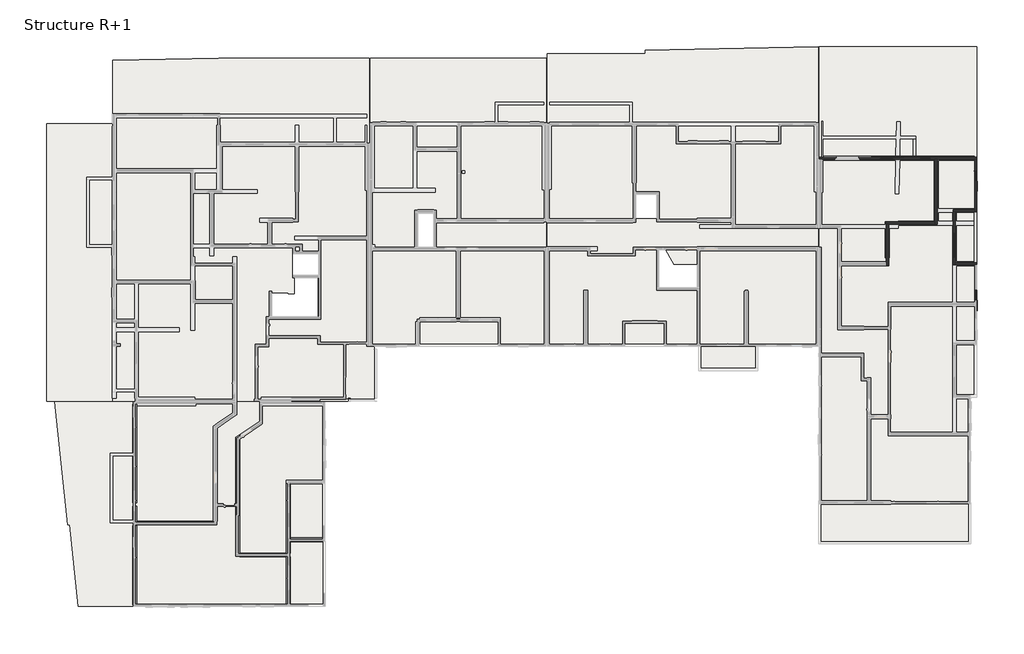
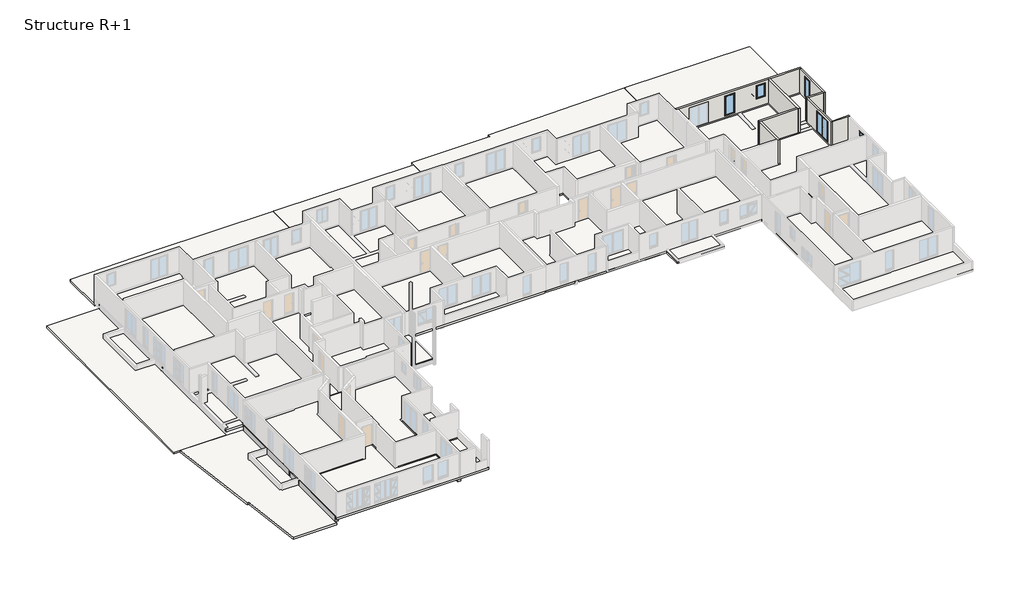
# One storey, part 8 of 11: 12 slabs, 10 walls, 6 beams, 5 windows.
"""IFC4 building model written with IfcOpenShell, lengths in millimetres."""

from ifc_helpers import new_model, si_unit, frame, origin, place, context, project, spatial, polyline, outline, extrude, faceted_brep, transform, mapped, element, save
from components import window_f6eb430b, window_595b25a0, window_0_80m_x_2_05m_45d8a1b5, window_0_90m_x_2_05m_de598733, window_1_80m_x_2_15m_7d3a4370

model = new_model("IFC4")

# Units and contexts
model_context = context("Model", 3, world=origin())
ifc_project = project(units=[si_unit("LENGTHUNIT", "METRE", prefix="MILLI")], contexts=[model_context])

# Site, building, storey
site = spatial("IfcSite", under=ifc_project)
building = spatial("IfcBuilding", under=site)
storey = spatial("IfcBuildingStorey", under=building, Name="Structure R+1", Elevation=3320.0)

# Beams
placement = place(None, origin())
element("IfcBeam", 1, ObjectType="Poutre rectangulaire - Béton : 300 x 600 mm", at=placement, inside=storey, context=model_context, shape_type="Brep", body=[
    faceted_brep([(5132.5654203, -5957.5497286, 3320.0), (5132.5654203, -5957.5497286, 2720.0), (5432.5654203, -5957.5497286, 2720.0), (5432.5654203, -5957.5497286, 3320.0), (5132.5654203, 291.1256974, 3320.0), (5132.5654203, 291.1256974, 2720.0), (5432.5654203, 291.1256974, 2720.0), (5432.5654203, 291.1256974, 3320.0), (5344.2512184, 291.1256974, 3320.0), (5344.2512184, -5945.1620119, 3320.0), (5184.2512184, -5945.1620119, 3320.0), (5184.2512184, 291.1256974, 3320.0), (5184.2512184, 291.1256974, 3030.0), (5344.2512184, 291.1256974, 3030.0), (5184.2512184, -5945.1620119, 3030.0), (5344.2512184, -5945.1620119, 3030.0)], [[[0, 1, 2, 3]], [[1, 0, 4, 5]], [[2, 1, 5, 6]], [[3, 2, 6, 7]], [[0, 3, 7, 8, 9, 10, 11, 4]], [[5, 4, 11, 12, 13, 8, 7, 6]], [[14, 15, 13, 12]], [[15, 14, 10, 9]], [[10, 14, 12, 11]], [[15, 9, 8, 13]]]),
    faceted_brep([(5432.5654203, 9987.8502714, 2720.0), (5184.2512184, 9987.8502714, 2720.0), (5184.2512184, 9987.8502714, 3030.0), (5344.2512184, 9987.8502714, 3030.0), (5344.2512184, 9987.8502714, 3230.0), (5432.5654203, 9987.8502714, 3230.0), (5132.5654203, 2104.6479064, 3320.0), (5132.5654203, 2104.6479064, 2720.0), (5432.5654203, 2104.6479064, 2720.0), (5432.5654203, 2104.6479064, 3320.0), (5344.2512184, 2104.6479064, 3320.0), (5344.2512184, 2104.6479064, 3030.0), (5184.2512184, 2104.6479064, 3030.0), (5184.2512184, 2104.6479064, 3320.0), (5132.5654203, 9855.4625547, 3320.0), (5132.5654203, 9855.4625547, 2720.0), (5184.2512184, 9855.4625547, 2720.0), (5432.5654203, 9755.4658562, 2720.0), (5432.5654203, 9895.4625547, 3230.0), (5432.5654203, 9895.4625547, 3320.0), (5432.5654203, 9755.4658562, 3320.0), (5344.2512184, 9895.4625547, 3320.0), (5184.2512184, 9855.4625547, 3320.0), (5184.2512184, 9855.4625547, 3030.0), (5344.2512184, 9895.4625547, 3230.0)], [[[0, 1, 2, 3, 4, 5]], [[6, 7, 8, 9, 10, 11, 12, 13]], [[7, 6, 14, 15]], [[8, 7, 15, 16, 1, 0, 17]], [[9, 8, 17, 0, 5, 18, 19, 20]], [[10, 9, 20, 19, 21]], [[15, 14, 22, 23, 16]], [[1, 16, 23, 2]], [[13, 12, 23, 22]], [[12, 11, 3, 2, 23]], [[22, 14, 6, 13]], [[11, 10, 21, 24, 4, 3]], [[18, 24, 21, 19]], [[24, 18, 5, 4]]]),
    faceted_brep([(5132.5654203, 591.1256974, 3320.0), (5132.5654203, 591.1256974, 2720.0), (5432.5654203, 591.1256974, 2720.0), (5432.5654203, 591.1256974, 3320.0), (5344.2512184, 591.1256974, 3320.0), (5344.2512184, 591.1256974, 3030.0), (5184.2512184, 591.1256974, 3030.0), (5184.2512184, 591.1256974, 3320.0), (5132.5654203, 1804.6479064, 3320.0), (5132.5654203, 1804.6479064, 2720.0), (5432.5654203, 1804.6479064, 2720.0), (5432.5654203, 636.6320402, 2720.0), (5432.5654203, 1804.6479064, 3320.0), (5432.5654203, 636.6320402, 3320.0), (5344.2512184, 1804.6479064, 3320.0), (5184.2512184, 1804.6479064, 3320.0), (5184.2512184, 1804.6479064, 3030.0), (5344.2512184, 1804.6479064, 3030.0)], [[[0, 1, 2, 3, 4, 5, 6, 7]], [[1, 0, 8, 9]], [[2, 1, 9, 10, 11]], [[3, 2, 11, 10, 12, 13]], [[4, 3, 13, 12, 14]], [[9, 8, 15, 16, 17, 14, 12, 10]], [[7, 6, 16, 15]], [[6, 5, 17, 16]], [[0, 7, 15, 8]], [[5, 4, 14, 17]]]),
])
element("IfcBeam", 2, ObjectType="Poutre rectangulaire - Béton : 300 x 600 mm", at=placement, inside=storey, context=model_context, shape_type="Brep", body=[
    faceted_brep([(13571.3920271, 7455.6059202, 2720.0), (13571.3920271, 7455.6059202, 3320.0), (13571.3920271, 7092.1406286, 3320.0), (13571.3920271, -1887.3578077, 3320.0), (13571.3920271, -1887.3578077, 2720.0), (13571.3920271, 7092.1406286, 2720.0), (13271.3920271, 7250.4059734, 2720.0), (13271.3920271, -1887.3578077, 2720.0), (13271.3920271, 7250.4059734, 3320.0), (13271.3920271, -1887.3578077, 3320.0)], [[[0, 1, 2, 3, 4, 5]], [[6, 0, 5, 4, 7]], [[8, 6, 7, 9]], [[1, 8, 9, 3, 2]], [[4, 3, 9, 7]], [[1, 0, 6, 8]]]),
])
element("IfcBeam", 3, ObjectType="Poutre rectangulaire - Béton : 300 x 600 mm", at=placement, inside=storey, context=model_context, shape_type="Brep", body=[
    faceted_brep([(17273.1790818, -6017.9918302, 3320.0), (17273.1790818, -6017.9918302, 2720.0), (17573.1790818, -6017.9918302, 2720.0), (17573.1790818, -6017.9918302, 3320.0), (17273.1790818, -2187.3578077, 3320.0), (17273.1790818, -2187.3578077, 2720.0), (17573.1790818, -2187.3578077, 2720.0), (17573.1790818, -2187.3578077, 3320.0)], [[[0, 1, 2, 3]], [[1, 0, 4, 5]], [[2, 1, 5, 6]], [[3, 2, 6, 7]], [[0, 3, 7, 4]], [[5, 4, 7, 6]]]),
    faceted_brep([(17273.1790818, 3581.8241455, 2720.0), (17273.1790818, 3581.8241455, 3030.0), (17273.1790818, 3581.8241455, 3320.0), (17573.1790818, 3581.8241455, 3320.0), (17573.1790818, 3581.8241455, 3030.0), (17573.1790818, 3581.8241455, 2720.0), (17273.1790818, -1887.3578077, 3320.0), (17273.1790818, -1887.3578077, 2720.0), (17573.1790818, -1887.3578077, 2720.0), (17573.1790818, -1887.3578077, 3320.0), (17573.1790818, -684.9801512, 2720.0), (17573.1790818, -984.9801512, 2720.0), (17573.1790818, -684.9801512, 3320.0), (17573.1790818, -984.9801512, 3320.0)], [[[0, 1, 2, 3, 4, 5]], [[6, 7, 8, 9]], [[2, 1, 0, 7, 6]], [[0, 5, 10, 11, 8, 7]], [[5, 4, 3, 12, 13, 9, 8, 11, 10]], [[3, 2, 6, 9, 13, 12]]]),
])
element("IfcBeam", 4, ObjectType="Poutre rectangulaire - Béton : 300 x 600 mm", at=placement, inside=storey, context=model_context, shape_type="SweptSolid", body=[
    extrude(outline(polyline([(20228.2499099, -684.9801512), (20228.2499099, -984.9801512), (17573.1790818, -984.9801512), (17573.1790818, -684.9801512), (20228.2499099, -684.9801512)])), frame((0.0, 0.0, 2720.0), z_axis=(0.0, 0.0, 1.0), x_axis=(1.0, 0.0, 0.0)), (0.0, 0.0, 1.0), 600.0),
])
element("IfcBeam", 5, ObjectType="Poutre rectangulaire - Béton : 300 x 600 mm", at=placement, inside=storey, context=model_context, shape_type="SweptSolid", body=[
    extrude(outline(polyline([(17273.1790818, -1887.3578077), (17273.1790818, -2187.3578077), (13571.3920271, -2187.3578077), (13571.3920271, -1887.3578077), (17273.1790818, -1887.3578077)])), frame((0.0, 0.0, 2720.0), z_axis=(0.0, 0.0, 1.0), x_axis=(1.0, 0.0, 0.0)), (0.0, 0.0, 1.0), 600.0),
])
element("IfcBeam", 6, ObjectType="Poutre rectangulaire - Béton : 300 x 600 mm", at=placement, inside=storey, context=model_context, shape_type="Brep", body=[
    faceted_brep([(11487.2274568, 636.6320402, 3320.0), (11487.2274568, 636.6320402, 2720.0), (5432.5654203, 636.6320402, 2720.0), (5432.5654203, 636.6320402, 3320.0), (5432.5654203, 336.6320402, 2720.0), (5432.5654203, 591.1256974, 2720.0), (11487.2274568, 336.6320402, 2720.0), (5432.5654203, 336.6320402, 3320.0), (11487.2274568, 336.6320402, 3320.0), (5432.5654203, 591.1256974, 3320.0)], [[[0, 1, 2, 3]], [[4, 5, 2, 1, 6]], [[7, 4, 6, 8]], [[3, 9, 7, 8, 0]], [[4, 7, 9, 3, 2, 5]], [[1, 0, 8, 6]]]),
])

# Slabs
element("IfcSlab", 7, ObjectType="Dalle en béton - 200 mm", at=placement, inside=storey, context=model_context, shape_type="SweptSolid", body=[
    extrude(outline(polyline([(3555.2220688, 32810.6398567), (11991.9058449, 32810.6398567), (11991.9058449, 30510.6398567), (23803.2655761, 30510.6398567), (23803.2655761, 26687.8463688), (23803.2655761, 14497.950891), (22135.222667, 14497.950891), (22135.222667, 10105.4117008), (3555.2220688, 10105.4117008), (3555.2220688, 32810.6398567)]), holes=[polyline([(17939.3988956, 19864.6101745), (17939.3988956, 18564.6534468), (17366.1932434, 18564.6534468), (17366.1932434, 18636.3961603), (16106.1727456, 18636.3961603), (16106.1727456, 16780.9152593), (19729.8425091, 16780.9152593), (19729.8425091, 19864.6101745), (17939.3988956, 19864.6101745)]), polyline([(19809.8425091, 21756.9971496), (17765.0745996, 21756.9971496), (17765.0745996, 20064.6534315), (19809.8425091, 20064.6534315), (19809.8425091, 21756.9971496)])]), frame((0.0, 0.0, 3030.0), z_axis=(0.0, 0.0, 1.0), x_axis=(1.0, 0.0, 0.0)), (0.0, 0.0, 1.0), 200.0),
])
element("IfcSlab", 8, ObjectType="Dalle en béton - 200 mm", at=placement, inside=storey, context=model_context, shape_type="Brep", body=[
    faceted_brep([(5184.2512184, -6105.1620119, 3030.0), (5184.2512184, 10065.4625547, 3030.0), (20315.920738, 10065.4625547, 3030.0), (20315.920738, -6105.1620119, 3030.0), (5184.2512184, -6105.1620119, 3230.0), (17362.934101, -6105.1620119, 3230.0), (17522.934101, -6105.1620119, 3230.0), (18982.9329233, -6105.1620119, 3230.0), (20167.8598396, -6105.1620119, 3230.0), (20315.920738, -6105.1620119, 3230.0), (20315.920738, 265.0198488, 3230.0), (20315.920738, 3635.465256, 3230.0), (20315.920738, 10065.4625547, 3230.0), (5184.2512184, 10065.4625547, 3230.0), (5184.2512184, 10055.4625547, 3230.0), (5184.2512184, -5945.1620119, 3230.0)], [[[0, 1, 2, 3]], [[4, 5, 6, 7, 8, 9, 10, 11, 12, 13, 14, 15]], [[2, 1, 13, 12]], [[3, 2, 12, 11, 10, 9]], [[0, 3, 9, 8, 7, 6, 5, 4]], [[1, 0, 4, 15, 14, 13]]]),
])
element("IfcSlab", 9, ObjectType="Dalle en béton - 200 mm", at=placement, inside=storey, context=model_context, shape_type="Brep", body=[
    faceted_brep([(37807.390788, 32107.4960317, 3030.0), (37807.390788, 31857.4959984, 3030.0), (37807.390788, 14597.8380864, 3030.0), (37807.390788, 14437.8380864, 3030.0), (23879.3002373, 14437.8380864, 3030.0), (23879.3002373, 32107.4960317, 3030.0), (24101.9389593, 32107.4960317, 3030.0), (37598.3832806, 32107.4960317, 3030.0), (24232.0816765, 22466.1118239, 3030.0), (24031.9389593, 22466.1118239, 3030.0), (24031.9389593, 22291.3798213, 3030.0), (24086.6455127, 22291.3798213, 3030.0), (24232.0816765, 22291.3798213, 3030.0), (24232.0816765, 22292.4973448, 3030.0), (31344.1569652, 28305.7586156, 3030.0), (31145.3833348, 28305.7586156, 3030.0), (31145.3833348, 28131.0266131, 3030.0), (31344.1569652, 28131.0266131, 3030.0), (28898.3678937, 25007.8260092, 3030.0), (27635.6960659, 25007.8260092, 3030.0), (27626.9395184, 25007.8260092, 3030.0), (27626.9395184, 22292.4973448, 3030.0), (27626.9395184, 22272.4973448, 3030.0), (28898.3678937, 22272.4973448, 3030.0), (28898.3678937, 22292.4973448, 3030.0), (28898.3678937, 24945.4956715, 3030.0), (37807.390788, 32107.4960317, 3230.0), (30984.3814808, 32107.4960317, 3230.0), (27524.3814808, 32107.4960317, 3230.0), (23879.3002373, 32107.4960317, 3230.0), (23879.3002373, 14437.8380864, 3230.0), (27586.9796965, 14437.8380864, 3230.0), (27746.9796965, 14437.8380864, 3230.0), (34012.3966699, 14437.8380864, 3230.0), (37807.390788, 14437.8380864, 3230.0), (37807.390788, 14597.8380864, 3230.0), (37807.390788, 31857.4959984, 3230.0), (31344.1569652, 28305.7586156, 3230.0), (31344.1569652, 28131.0266131, 3230.0), (31145.3833348, 28131.0266131, 3230.0), (31145.3833348, 28305.7586156, 3230.0), (24232.0816765, 22466.1118239, 3230.0), (24232.0816765, 22292.4973448, 3230.0), (24232.0816765, 22291.3798213, 3230.0), (24086.6455127, 22291.3798213, 3230.0), (24031.9389593, 22291.3798213, 3230.0), (24031.9389593, 22466.1118239, 3230.0), (28898.3678937, 25007.8260092, 3230.0), (28898.3678937, 24945.4956715, 3230.0), (28898.3678937, 22292.4973448, 3230.0), (28898.3678937, 22272.4973448, 3230.0), (27626.9395184, 22272.4973448, 3230.0), (27626.9395184, 22292.4973448, 3230.0), (27626.9395184, 25007.8260092, 3230.0), (27635.6960659, 25007.8260092, 3230.0)], [[[0, 1, 2, 3, 4, 5, 6, 7], [8, 9, 10, 11, 12, 13], [14, 15, 16, 17], [18, 19, 20, 21, 22, 23, 24, 25]], [[26, 27, 28, 29, 30, 31, 32, 33, 34, 35, 36], [37, 38, 39, 40], [41, 42, 43, 44, 45, 46], [47, 48, 49, 50, 51, 52, 53, 54]], [[3, 2, 1, 0, 26, 36, 35, 34]], [[4, 3, 34, 33, 32, 31, 30]], [[5, 4, 30, 29]], [[0, 7, 6, 5, 29, 28, 27, 26]], [[9, 8, 41, 46]], [[10, 9, 46, 45]], [[12, 11, 10, 45, 44, 43]], [[8, 13, 12, 43, 42, 41]], [[15, 14, 37, 40]], [[16, 15, 40, 39]], [[17, 16, 39, 38]], [[14, 17, 38, 37]], [[20, 19, 18, 47, 54, 53]], [[22, 21, 20, 53, 52, 51]], [[23, 22, 51, 50]], [[18, 25, 24, 23, 50, 49, 48, 47]]]),
])
element("IfcSlab", 10, ObjectType="Dalle en béton - 200 mm", at=placement, inside=storey, context=model_context, shape_type="Brep", body=[
    faceted_brep([(37808.398272, 37202.4079561, 2510.0), (37808.398272, 32107.4974719, 2510.0), (23879.4832806, 32107.4974719, 2510.0), (23879.4832806, 37202.4079561, 2510.0), (37808.398272, 37202.4079561, 2710.0), (37799.4832806, 37202.4079561, 2710.0), (23891.9389593, 37202.4079561, 2710.0), (23879.4832806, 37202.4079561, 2710.0), (23879.4832806, 32107.4974719, 2710.0), (37808.398272, 32107.4974719, 2710.0)], [[[0, 1, 2, 3]], [[4, 5, 6, 7, 8, 9]], [[1, 0, 4, 9]], [[2, 1, 9, 8]], [[3, 2, 8, 7]], [[0, 3, 7, 6, 5, 4]]]),
])
element("IfcSlab", 11, ObjectType="Dalle en béton - 200 mm", at=placement, inside=storey, context=model_context, shape_type="Brep", body=[
    faceted_brep([(11903.2655761, 37202.4079561, 2510.0), (23803.2655761, 37202.4079561, 2510.0), (23803.2655761, 36992.4079561, 2510.0), (23803.2655761, 30510.6398567, 2510.0), (11991.9058449, 30510.6398567, 2510.0), (11991.9058449, 32810.6398567, 2510.0), (3556.9078335, 32810.6398567, 2510.0), (3556.9078335, 36826.190541, 2510.0), (3556.9078335, 37036.2321596, 2510.0), (11903.2655761, 37202.4079561, 2710.0), (3556.9078335, 37036.2321596, 2710.0), (3556.9078335, 36826.190541, 2710.0), (3556.9078335, 32810.6398567, 2710.0), (11991.9058449, 32810.6398567, 2710.0), (11991.9058449, 30510.6398567, 2710.0), (23803.2655761, 30510.6398567, 2710.0), (23803.2655761, 36992.4079561, 2710.0), (23803.2655761, 37202.4079561, 2710.0)], [[[0, 1, 2, 3, 4, 5, 6, 7, 8]], [[9, 10, 11, 12, 13, 14, 15, 16, 17]], [[1, 0, 9, 17]], [[3, 2, 1, 17, 16, 15]], [[4, 3, 15, 14]], [[5, 4, 14, 13]], [[6, 5, 13, 12]], [[8, 7, 6, 12, 11, 10]], [[0, 8, 10, 9]]]),
])
element("IfcSlab", 12, ObjectType="Dalle en béton - 200 mm", at=placement, inside=storey, context=model_context, shape_type="SweptSolid", body=[
    extrude(outline(polyline([(3536.9058449, 32028.092309), (3536.9058449, 10125.4652425), (-1683.0020232, 10125.4652425), (-1683.0020232, 32028.092309), (3536.9058449, 32028.092309)])), frame((0.0, 0.0, 2510.0), z_axis=(0.0, 0.0, 1.0), x_axis=(1.0, 0.0, 0.0)), (0.0, 0.0, 1.0), 200.0),
])
element("IfcSlab", 13, ObjectType="Dalle en béton - 200 mm", at=placement, inside=storey, context=model_context, shape_type="SweptSolid", body=[
    extrude(outline(polyline([(5184.2512184, 10065.4625547), (5184.2512184, -6105.1620119), (840.2479411, -6105.1620119), (162.7145278, 341.1378118), (-17.3136452, 341.1378118), (-1039.3813608, 10065.4625547), (5184.2512184, 10065.4625547)])), frame((0.0, 0.0, 2510.0), z_axis=(0.0, 0.0, 1.0), x_axis=(1.0, 0.0, 0.0)), (0.0, 0.0, 1.0), 200.0),
])
element("IfcSlab", 14, ObjectType="Dalle en béton - 200 mm", at=placement, inside=storey, context=model_context, shape_type="Brep", body=[
    faceted_brep([(59292.9658186, 14457.4960288, 3030.0), (54492.9658186, 14457.4960288, 3030.0), (54492.9658186, 12557.4960288, 3030.0), (49852.9658186, 12557.4960288, 3030.0), (49852.9658186, 14457.4960288, 3030.0), (41077.3913304, 14457.4960288, 3030.0), (40777.3913304, 14457.4960288, 3030.0), (37867.390788, 14457.4960288, 3030.0), (37867.390788, 32087.4960094, 3030.0), (37878.7313075, 32087.4960094, 3030.0), (38178.7313075, 32087.4960094, 3030.0), (59282.9632272, 32087.4960094, 3030.0), (59292.9658186, 32087.4960094, 3030.0), (47199.3236625, 22097.4951106, 3030.0), (46698.8671522, 22097.4951106, 3030.0), (46698.8671522, 19072.9017524, 3030.0), (49725.0121044, 19072.9017524, 3030.0), (49725.0121044, 20889.0062839, 3030.0), (47878.8671522, 20889.0062839, 3030.0), (46510.3925697, 26457.7598122, 3030.0), (44857.3927707, 26457.7598122, 3030.0), (44857.3927707, 24557.9898683, 3030.0), (46510.3925697, 24557.9898683, 3030.0), (59292.9658186, 14457.4960288, 3230.0), (59292.9658186, 32087.4960094, 3230.0), (37867.390788, 32087.4960094, 3230.0), (37867.390788, 14617.4952897, 3230.0), (37867.390788, 14457.4960288, 3230.0), (49852.9658186, 14457.4960288, 3230.0), (49852.9658186, 12557.4960288, 3230.0), (54492.9658186, 12557.4960288, 3230.0), (54492.9658186, 14457.4960288, 3230.0), (46510.3925697, 26457.7598122, 3230.0), (46510.3925697, 24557.9898683, 3230.0), (44857.3927707, 24557.9898683, 3230.0), (44857.3927707, 26457.7598122, 3230.0), (47199.3236625, 22097.4951106, 3230.0), (47878.8671522, 20889.0062839, 3230.0), (49725.0121044, 20889.0062839, 3230.0), (49725.0121044, 19072.9017524, 3230.0), (46698.8671522, 19072.9017524, 3230.0), (46698.8671522, 22097.4951106, 3230.0)], [[[0, 1, 2, 3, 4, 5, 6, 7, 8, 9, 10, 11, 12], [13, 14, 15, 16, 17, 18], [19, 20, 21, 22]], [[23, 24, 25, 26, 27, 28, 29, 30, 31], [32, 33, 34, 35], [36, 37, 38, 39, 40, 41]], [[0, 12, 24, 23]], [[1, 0, 23, 31]], [[2, 1, 31, 30]], [[3, 2, 30, 29]], [[4, 3, 29, 28]], [[7, 6, 5, 4, 28, 27]], [[8, 7, 27, 26, 25]], [[14, 13, 36, 41]], [[15, 14, 41, 40]], [[16, 15, 40, 39]], [[17, 16, 39, 38]], [[20, 19, 32, 35]], [[21, 20, 35, 34]], [[22, 21, 34, 33]], [[19, 22, 33, 32]], [[12, 11, 10, 9, 8, 25, 24]], [[18, 17, 38, 37]], [[13, 18, 37, 36]]]),
])
element("IfcSlab", 15, ObjectType="Dalle en béton - 200 mm", at=placement, inside=storey, context=model_context, shape_type="Brep", body=[
    faceted_brep([(71794.898036, 29381.5866004, 3030.0), (71794.898036, 29301.5866004, 3030.0), (71794.898036, 25179.102104, 3030.0), (71794.898036, 20954.8947764, 3030.0), (71794.898036, 14661.6515349, 3030.0), (71794.898036, 10624.6162149, 3030.0), (71794.898036, 10424.6162149, 3030.0), (71327.0236897, 10424.6162149, 3030.0), (71317.0236897, 10424.6162149, 3030.0), (71317.0236897, 10314.6162149, 3030.0), (71317.0236897, 7665.5919516, 3030.0), (71317.0236897, 7365.5919516, 3030.0), (71317.0236897, 2104.0269927, 3030.0), (71317.0236897, -1137.3140034, 3030.0), (71177.0281909, -1137.3140034, 3030.0), (59492.9059955, -1137.3140034, 3030.0), (59353.9486146, -1137.3140034, 3030.0), (59353.9486146, 2104.0269927, 3030.0), (59353.9486146, 14437.838074, 3030.0), (59353.9486146, 29381.5866004, 3030.0), (59363.0074525, 29381.5866004, 3030.0), (59562.998512, 29381.5866004, 3030.0), (59663.0074525, 29381.5866004, 3030.0), (71794.898036, 29381.5866004, 3230.0), (59353.9486146, 29381.5866004, 3230.0), (59353.9486146, 14437.838074, 3230.0), (59353.9486146, 2184.0269927, 3230.0), (59353.9486146, 2104.0269927, 3230.0), (59353.9486146, 2024.0269927, 3230.0), (59353.9486146, -1137.3140034, 3230.0), (59492.9059955, -1137.3140034, 3230.0), (71177.0281909, -1137.3140034, 3230.0), (71317.0236897, -1137.3140034, 3230.0), (71317.0236897, 2024.0269927, 3230.0), (71317.0236897, 2104.0269927, 3230.0), (71317.0236897, 10424.6162149, 3230.0), (71794.898036, 10424.6162149, 3230.0), (71794.898036, 10624.6162149, 3230.0), (71794.898036, 14581.6515349, 3230.0), (71794.898036, 14661.6515349, 3230.0), (71794.898036, 20874.8947764, 3230.0), (71794.898036, 20954.8947764, 3230.0), (71794.898036, 21034.8947764, 3230.0), (71794.898036, 25099.102104, 3230.0), (71794.898036, 25179.102104, 3230.0), (71794.898036, 29221.5866004, 3230.0), (71794.898036, 29301.5866004, 3230.0)], [[[0, 1, 2, 3, 4, 5, 6, 7, 8, 9, 10, 11, 12, 13, 14, 15, 16, 17, 18, 19, 20, 21, 22]], [[23, 24, 25, 26, 27, 28, 29, 30, 31, 32, 33, 34, 35, 36, 37, 38, 39, 40, 41, 42, 43, 44, 45, 46]], [[6, 5, 4, 3, 2, 1, 0, 23, 46, 45, 44, 43, 42, 41, 40, 39, 38, 37, 36]], [[8, 7, 6, 36, 35]], [[13, 12, 11, 10, 9, 8, 35, 34, 33, 32]], [[16, 15, 14, 13, 32, 31, 30, 29]], [[19, 18, 17, 16, 29, 28, 27, 26, 25, 24]], [[0, 22, 21, 20, 19, 24, 23]]]),
])
element("IfcSlab", 16, ObjectType="Dalle en béton - 160 mm", at=placement, inside=storey, context=model_context, shape_type="SweptSolid", body=[
    extrude(outline(polyline([(24225.3588765, 14600.8367198), (24225.3588765, 10303.4432428), (21972.2231526, 10303.4432428), (21972.2231526, 14600.8367198), (24225.3588765, 14600.8367198)])), frame((0.0, 0.0, 3220.0), z_axis=(0.0, 0.0, 1.0), x_axis=(1.0, 0.0, 0.0)), (0.0, 0.0, 1.0), 160.0),
])
element("IfcSlab", 17, ObjectType="Dalle en béton - 200 mm", at=placement, inside=storey, context=model_context, shape_type="Brep", body=[
    faceted_brep([(59353.0074525, 38134.6162149, 2510.0), (71608.498036, 38134.6162149, 2510.0), (71797.9579903, 38134.6162149, 2510.0), (71797.9579903, 29381.5866004, 2510.0), (59353.0074525, 29381.5866004, 2510.0), (59353.0074525, 37944.6162149, 2510.0), (59353.0074525, 38134.6162149, 2710.0), (59353.0074525, 37944.6162149, 2710.0), (59353.0074525, 29381.5866004, 2710.0), (71797.9579903, 29381.5866004, 2710.0), (71797.9579903, 38134.6162149, 2710.0), (71608.498036, 38134.6162149, 2710.0)], [[[0, 1, 2, 3, 4, 5]], [[6, 7, 8, 9, 10, 11]], [[2, 1, 0, 6, 11, 10]], [[4, 3, 9, 8]], [[0, 5, 4, 8, 7, 6]], [[3, 2, 10, 9]]]),
])
element("IfcSlab", 18, ObjectType="Dalle en béton - 200 mm", at=placement, inside=storey, context=model_context, shape_type="Brep", body=[
    faceted_brep([(59292.9632272, 32087.4960094, 2510.0), (37868.7313075, 32087.4960094, 2510.0), (37868.7313075, 37580.5992191, 2510.0), (45598.577574, 37580.5992191, 2510.0), (45618.577574, 37580.5992191, 2510.0), (45618.577574, 37845.5992191, 2510.0), (59292.9632272, 38131.0631066, 2510.0), (59292.9632272, 32087.4960094, 2710.0), (59292.9632272, 38131.0631066, 2710.0), (45618.577574, 37845.5992191, 2710.0), (45618.577574, 37580.5992191, 2710.0), (45598.577574, 37580.5992191, 2710.0), (37868.7313075, 37580.5992191, 2710.0), (37868.7313075, 37390.5992191, 2710.0), (37868.7313075, 32087.4960094, 2710.0)], [[[0, 1, 2, 3, 4, 5, 6]], [[7, 8, 9, 10, 11, 12, 13, 14]], [[1, 0, 7, 14]], [[2, 1, 14, 13, 12]], [[4, 3, 2, 12, 11, 10]], [[5, 4, 10, 9]], [[6, 5, 9, 8]], [[0, 6, 8, 7]]]),
])

# Walls
element("IfcWall", 19, ObjectType="Ext. Voile BA 16 + Isolant 120", at=placement, inside=storey, context=model_context, shape_type="Brep", body=[
    faceted_brep([(59353.0074525, 29221.5866004, 5830.0), (59353.0074525, 29221.5866004, 3230.0), (59553.0074525, 29221.5866004, 3230.0), (59663.0074525, 29221.5866004, 3230.0), (68507.2963514, 29221.5866004, 3230.0), (68707.2963514, 29221.5866004, 3230.0), (71638.498036, 29221.5866004, 3230.0), (71798.498036, 29221.5866004, 3230.0), (71798.498036, 29221.5866004, 5830.0), (71638.498036, 29221.5866004, 5830.0), (68707.2963514, 29221.5866004, 5830.0), (68507.2963514, 29221.5866004, 5830.0), (59553.0074525, 29221.5866004, 5830.0), (62543.5074193, 29221.5866004, 3355.0), (60643.5074193, 29221.5866004, 3355.0), (60643.5074193, 29221.5866004, 5555.0), (62543.5074193, 29221.5866004, 5555.0), (68197.2963514, 29221.5866004, 4155.0), (67297.2963514, 29221.5866004, 4155.0), (67297.2963514, 29221.5866004, 5555.0), (68197.2963514, 29221.5866004, 5555.0), (65170.4018854, 29221.5866004, 3455.0), (64170.4018854, 29221.5866004, 3455.0), (64170.4018854, 29221.5866004, 5555.0), (65170.4018854, 29221.5866004, 5555.0), (59353.0074525, 29381.5866004, 3230.0), (59353.0074525, 29381.5866004, 3330.0), (59353.0074525, 29381.5866004, 5830.0), (71798.498036, 29381.5866004, 5830.0), (71798.498036, 29381.5866004, 3230.0), (60693.5074193, 29381.5866004, 5505.0), (60693.5074193, 29381.5866004, 3346.5916612), (62493.5074193, 29381.5866004, 3346.5916612), (62493.5074193, 29381.5866004, 5505.0), (68147.2963514, 29381.5866004, 4075.0), (68147.2963514, 29381.5866004, 5505.0), (67347.2963514, 29381.5866004, 5505.0), (67347.2963514, 29381.5866004, 4075.0), (64220.4018854, 29381.5866004, 5505.0), (64220.4018854, 29381.5866004, 3446.5916612), (65120.4018854, 29381.5866004, 3446.5916612), (65120.4018854, 29381.5866004, 5505.0), (71798.498036, 29301.5866004, 3230.0), (60693.5074193, 29301.5866004, 3355.0), (60693.5074193, 29321.5866004, 5505.0), (60693.5074193, 29321.5866004, 3355.0), (62493.5074193, 29301.5866004, 3355.0), (62493.5074193, 29321.5866004, 3355.0), (62493.5074193, 29321.5866004, 5505.0), (60683.5074193, 29321.5866004, 3355.0), (60683.5074193, 29271.5866004, 3355.0), (60643.5074193, 29271.5866004, 3355.0), (62543.5074193, 29271.5866004, 3355.0), (62503.5074193, 29271.5866004, 3355.0), (62503.5074193, 29321.5866004, 3355.0), (60643.5074193, 29271.5866004, 5555.0), (60683.5074193, 29271.5866004, 5515.0), (62503.5074193, 29271.5866004, 5515.0), (62543.5074193, 29271.5866004, 5555.0), (60683.5074193, 29321.5866004, 5515.0), (62503.5074193, 29321.5866004, 5515.0), (68147.2963514, 29301.5866004, 4155.0), (68147.2963514, 29321.5866004, 4155.0), (68147.2963514, 29321.5866004, 5505.0), (68147.2963514, 29301.5866004, 4075.0), (67347.2963514, 29301.5866004, 4075.0), (67347.2963514, 29321.5866004, 5505.0), (67347.2963514, 29321.5866004, 4155.0), (67347.2963514, 29301.5866004, 4155.0), (67337.2963514, 29321.5866004, 4155.0), (67337.2963514, 29271.5866004, 4155.0), (67297.2963514, 29271.5866004, 4155.0), (68197.2963514, 29271.5866004, 4155.0), (68157.2963514, 29271.5866004, 4155.0), (68157.2963514, 29321.5866004, 4155.0), (68197.2963514, 29271.5866004, 5555.0), (67297.2963514, 29271.5866004, 5555.0), (67337.2963514, 29271.5866004, 5515.0), (68157.2963514, 29271.5866004, 5515.0), (68157.2963514, 29321.5866004, 5515.0), (67337.2963514, 29321.5866004, 5515.0), (64220.4018854, 29301.5866004, 3455.0), (64220.4018854, 29321.5866004, 5505.0), (64220.4018854, 29321.5866004, 3455.0), (65120.4018854, 29301.5866004, 3455.0), (65120.4018854, 29321.5866004, 3455.0), (65120.4018854, 29321.5866004, 5505.0), (64210.4018854, 29321.5866004, 3455.0), (64210.4018854, 29271.5866004, 3455.0), (64170.4018854, 29271.5866004, 3455.0), (65170.4018854, 29271.5866004, 3455.0), (65130.4018854, 29271.5866004, 3455.0), (65130.4018854, 29321.5866004, 3455.0), (64170.4018854, 29271.5866004, 5555.0), (64210.4018854, 29271.5866004, 5515.0), (65130.4018854, 29271.5866004, 5515.0), (65170.4018854, 29271.5866004, 5555.0), (64210.4018854, 29321.5866004, 5515.0), (65130.4018854, 29321.5866004, 5515.0)], [[[0, 1, 2, 3, 4, 5, 6, 7, 8, 9, 10, 11, 12], [13, 14, 15, 16], [17, 18, 19, 20], [21, 22, 23, 24]], [[25, 26, 27, 28, 29], [30, 31, 32, 33], [34, 35, 36, 37], [38, 39, 40, 41]], [[7, 6, 5, 4, 3, 2, 1, 25, 29, 42]], [[0, 12, 11, 10, 9, 8, 28, 27]], [[43, 31, 30, 44, 45]], [[32, 46, 47, 48, 33]], [[43, 46, 32, 31]], [[30, 33, 48, 44]], [[46, 43, 45, 49, 50, 51, 14, 13, 52, 53, 54, 47]], [[14, 51, 55, 15]], [[51, 50, 56, 57, 53, 52, 58, 55]], [[50, 49, 59, 56]], [[49, 45, 44, 48, 47, 54, 60, 59]], [[15, 55, 58, 16]], [[57, 56, 59, 60]], [[58, 52, 13, 16]], [[53, 57, 60, 54]], [[61, 62, 63, 35, 34, 64]], [[65, 37, 36, 66, 67, 68]], [[64, 34, 37, 65]], [[64, 65, 68, 61]], [[35, 63, 66, 36]], [[68, 67, 69, 70, 71, 18, 17, 72, 73, 74, 62, 61]], [[17, 20, 75, 72]], [[72, 75, 76, 71, 70, 77, 78, 73]], [[73, 78, 79, 74]], [[74, 79, 80, 69, 67, 66, 63, 62]], [[20, 19, 76, 75]], [[77, 80, 79, 78]], [[76, 19, 18, 71]], [[70, 69, 80, 77]], [[81, 39, 38, 82, 83]], [[40, 84, 85, 86, 41]], [[81, 84, 40, 39]], [[38, 41, 86, 82]], [[84, 81, 83, 87, 88, 89, 22, 21, 90, 91, 92, 85]], [[22, 89, 93, 23]], [[89, 88, 94, 95, 91, 90, 96, 93]], [[88, 87, 97, 94]], [[87, 83, 82, 86, 85, 92, 98, 97]], [[23, 93, 96, 24]], [[95, 94, 97, 98]], [[96, 90, 21, 24]], [[91, 95, 98, 92]], [[0, 27, 26, 25, 1]], [[8, 7, 42, 29, 28]]]),
])
element("IfcWall", 20, ObjectType="Ext. Voile BA 16 + Isolant 120", at=placement, inside=storey, context=model_context, shape_type="Brep", body=[
    faceted_brep([(71638.498036, 25099.102104, 5830.0), (71638.498036, 25179.102104, 5830.0), (71638.498036, 25259.102104, 5830.0), (71638.498036, 29221.5866004, 5830.0), (71638.498036, 29221.5866004, 3230.0), (71638.498036, 25259.102104, 3230.0), (71638.498036, 25099.102104, 3230.0), (71638.498036, 27475.5136899, 3455.0), (71638.498036, 28375.5136899, 3455.0), (71638.498036, 28375.5136899, 5555.0), (71638.498036, 27475.5136899, 5555.0), (71798.498036, 25179.102104, 3030.0), (71798.498036, 29301.5866004, 3030.0), (71798.498036, 29301.5866004, 3230.0), (71798.498036, 29221.5866004, 3230.0), (71798.498036, 29221.5866004, 5830.0), (71798.498036, 25179.102104, 5830.0), (71798.498036, 25099.102104, 5830.0), (71798.498036, 25099.102104, 3380.0), (71798.498036, 25099.102104, 3230.0), (71798.498036, 25179.102104, 3230.0), (71798.498036, 28325.5136899, 5505.0), (71798.498036, 28325.5136899, 3446.5916612), (71798.498036, 27525.5136899, 3446.5916612), (71798.498036, 27525.5136899, 5505.0), (71794.898036, 25179.102104, 3030.0), (71794.898036, 29301.5866004, 3030.0), (71718.498036, 28325.5136899, 3455.0), (71738.498036, 28325.5136899, 5505.0), (71738.498036, 28325.5136899, 3455.0), (71718.498036, 27525.5136899, 3455.0), (71738.498036, 27525.5136899, 3455.0), (71738.498036, 27525.5136899, 5505.0), (71738.498036, 28335.5136899, 3455.0), (71688.498036, 28335.5136899, 3455.0), (71688.498036, 28375.5136899, 3455.0), (71688.498036, 27475.5136899, 3455.0), (71688.498036, 27515.5136899, 3455.0), (71738.498036, 27515.5136899, 3455.0), (71688.498036, 28375.5136899, 5555.0), (71688.498036, 28335.5136899, 5515.0), (71688.498036, 27515.5136899, 5515.0), (71688.498036, 27475.5136899, 5555.0), (71738.498036, 28335.5136899, 5515.0), (71738.498036, 27515.5136899, 5515.0), (71794.898036, 29301.5866004, 3230.0), (71794.898036, 29221.5866004, 3230.0), (71794.898036, 25179.102104, 3230.0), (71794.898036, 25099.102104, 3230.0)], [[[0, 1, 2, 3, 4, 5, 6], [7, 8, 9, 10]], [[11, 12, 13, 14, 15, 16, 17, 18, 19, 20], [21, 22, 23, 24]], [[12, 11, 25, 26]], [[3, 2, 1, 0, 17, 16, 15]], [[27, 22, 21, 28, 29]], [[23, 30, 31, 32, 24]], [[22, 27, 30, 23]], [[28, 21, 24, 32]], [[27, 29, 33, 34, 35, 8, 7, 36, 37, 38, 31, 30]], [[8, 35, 39, 9]], [[35, 34, 40, 41, 37, 36, 42, 39]], [[34, 33, 43, 40]], [[29, 28, 32, 31, 38, 44, 43, 33]], [[9, 39, 42, 10]], [[41, 40, 43, 44]], [[36, 7, 10, 42]], [[38, 37, 41, 44]], [[13, 12, 26, 45]], [[14, 13, 45, 46]], [[11, 20, 47, 25]], [[4, 46, 47, 20, 19, 48, 6, 5]], [[3, 15, 14, 46, 4]], [[47, 46, 45, 26, 25]], [[17, 0, 6, 48, 19, 18]]]),
])
element("IfcWall", 21, ObjectType="Ext. Voile BA 16 + Isolant 120", at=placement, inside=storey, context=model_context, shape_type="Brep", body=[
    faceted_brep([(71638.498036, 25259.102104, 5830.0), (71638.498036, 25259.102104, 3230.0), (69965.3197793, 25259.102104, 3230.0), (69965.3197793, 25259.102104, 5830.0), (71638.498036, 25099.102104, 3230.0), (71638.498036, 25099.102104, 5830.0), (70125.3197793, 25099.102104, 5830.0), (69965.3197793, 25099.102104, 5830.0), (69965.3197793, 25099.102104, 3230.0), (70125.3197793, 25099.102104, 3230.0), (71598.4984496, 25099.102104, 3230.0)], [[[0, 1, 2, 3]], [[4, 5, 6, 7, 8, 9, 10]], [[2, 1, 4, 10, 9, 8]], [[0, 3, 7, 6, 5]], [[3, 2, 8, 7]], [[0, 5, 4, 1]]]),
])
element("IfcWall", 22, ObjectType="Ext. Voile BA 16 + Isolant 120", at=placement, inside=storey, context=model_context, shape_type="Brep", body=[
    faceted_brep([(69965.3197793, 25099.102104, 3230.0), (69965.3197793, 25029.1040958, 3230.0), (69965.3197793, 24334.1958834, 3230.0), (69965.3197793, 24034.1958834, 3230.0), (69965.3197793, 20874.8947764, 3230.0), (69965.3197793, 20874.8947764, 3320.0), (69965.3197793, 20874.8947764, 5830.0), (69965.3197793, 25099.102104, 5830.0), (69965.3197793, 21484.8947764, 3355.0), (69965.3197793, 23384.8947764, 3355.0), (69965.3197793, 23384.8947764, 5555.0), (69965.3197793, 21484.8947764, 5555.0), (70125.3197793, 25099.102104, 3230.0), (70125.3197793, 25099.102104, 5830.0), (70125.3197793, 21034.8947764, 5830.0), (70125.3197793, 20874.8947764, 5830.0), (70125.3197793, 20874.8947764, 3230.0), (70125.3197793, 21034.8947764, 3230.0), (70125.3197793, 24034.1958834, 3230.0), (70125.3197793, 24334.1958834, 3230.0), (70125.3197793, 25029.1040958, 3230.0), (70125.3197793, 23334.8947764, 5505.0), (70125.3197793, 23334.8947764, 3346.5916612), (70125.3197793, 21534.8947764, 3346.5916612), (70125.3197793, 21534.8947764, 5505.0), (70045.3197793, 23334.8947764, 3355.0), (70065.3197793, 23334.8947764, 5505.0), (70065.3197793, 23334.8947764, 3355.0), (70045.3197793, 21534.8947764, 3355.0), (70065.3197793, 21534.8947764, 3355.0), (70065.3197793, 21534.8947764, 5505.0), (70065.3197793, 23344.8947764, 3355.0), (70015.3197793, 23344.8947764, 3355.0), (70015.3197793, 23384.8947764, 3355.0), (70015.3197793, 21484.8947764, 3355.0), (70015.3197793, 21524.8947764, 3355.0), (70065.3197793, 21524.8947764, 3355.0), (70015.3197793, 23384.8947764, 5555.0), (70015.3197793, 23344.8947764, 5515.0), (70015.3197793, 21524.8947764, 5515.0), (70015.3197793, 21484.8947764, 5555.0), (70065.3197793, 23344.8947764, 5515.0), (70065.3197793, 21524.8947764, 5515.0)], [[[0, 1, 2, 3, 4, 5, 6, 7], [8, 9, 10, 11]], [[12, 13, 14, 15, 16, 17, 18, 19, 20], [21, 22, 23, 24]], [[4, 3, 2, 1, 0, 12, 20, 19, 18, 17, 16]], [[7, 6, 15, 14, 13]], [[0, 7, 13, 12]], [[6, 5, 4, 16, 15]], [[25, 22, 21, 26, 27]], [[23, 28, 29, 30, 24]], [[25, 28, 23, 22]], [[21, 24, 30, 26]], [[28, 25, 27, 31, 32, 33, 9, 8, 34, 35, 36, 29]], [[9, 33, 37, 10]], [[33, 32, 38, 39, 35, 34, 40, 37]], [[32, 31, 41, 38]], [[31, 27, 26, 30, 29, 36, 42, 41]], [[10, 37, 40, 11]], [[39, 38, 41, 42]], [[40, 34, 8, 11]], [[35, 39, 42, 36]]]),
])
element("IfcWall", 23, ObjectType="Ext. Voile BA 16 + Isolant 120", at=placement, inside=storey, context=model_context, shape_type="Brep", body=[
    faceted_brep([(70125.3197793, 20874.8947764, 3230.0), (70200.3173481, 20874.8947764, 3230.0), (71638.4984496, 20874.8947764, 3230.0), (71798.4984496, 20874.8947764, 3230.0), (71798.4984496, 20874.8947764, 5830.0), (71638.4984496, 20874.8947764, 5830.0), (70125.3197793, 20874.8947764, 5830.0), (70125.3197793, 21034.8947764, 3230.0), (70125.3197793, 21034.8947764, 3320.0), (70125.3197793, 21034.8947764, 5830.0), (71798.4984496, 21034.8947764, 5830.0), (71798.4984496, 21034.8947764, 3380.0), (71798.4984496, 21034.8947764, 3230.0), (71598.4984496, 21034.8947764, 3230.0), (70200.3173481, 21034.8947764, 3230.0), (71798.4984496, 20954.8947764, 3230.0)], [[[0, 1, 2, 3, 4, 5, 6]], [[7, 8, 9, 10, 11, 12, 13, 14]], [[3, 2, 1, 0, 7, 14, 13, 12, 15]], [[6, 5, 4, 10, 9]], [[0, 6, 9, 8, 7]], [[3, 15, 12, 11, 10, 4]]]),
])
element("IfcWall", 24, ObjectType="Ext. Voile BA 20", at=placement, inside=storey, context=model_context, shape_type="Brep", body=[
    faceted_brep([(71798.4984496, 20954.8947764, 3030.0), (71798.4984496, 25179.102104, 3030.0), (71798.4984496, 25179.102104, 3230.0), (71798.4984496, 25099.102104, 3230.0), (71798.4984496, 25099.102104, 3380.0), (71798.4984496, 21034.8947764, 3380.0), (71798.4984496, 21034.8947764, 3230.0), (71798.4984496, 20954.8947764, 3230.0), (71598.4984496, 21034.8947764, 3380.0), (71598.4984496, 25099.102104, 3380.0), (71598.4984496, 25099.102104, 3230.0), (71598.4984496, 21034.8947764, 3230.0), (71794.898036, 20954.8947764, 3030.0), (71794.898036, 25179.102104, 3030.0), (71794.898036, 20954.8947764, 3230.0), (71794.898036, 21034.8947764, 3230.0), (71794.898036, 25179.102104, 3230.0), (71794.898036, 25099.102104, 3230.0), (71638.498036, 25099.102104, 3230.0)], [[[0, 1, 2, 3, 4, 5, 6, 7]], [[8, 9, 10, 11]], [[1, 0, 12, 13]], [[5, 4, 9, 8]], [[0, 7, 14, 12]], [[7, 6, 15, 14]], [[5, 8, 11, 15, 6]], [[2, 1, 13, 16]], [[3, 2, 16, 17]], [[9, 4, 3, 17, 18, 10]], [[17, 15, 11, 10, 18]], [[15, 17, 16, 13, 12, 14]]]),
])
element("IfcWall", 25, ObjectType="Voile BA 20", at=placement, inside=storey, context=model_context, shape_type="Brep", body=[
    faceted_brep([(68507.2963514, 29221.5866004, 3230.0), (68507.2963514, 29147.9024223, 3230.0), (68507.2963514, 24334.1958834, 3230.0), (68507.2963514, 24284.1958834, 3230.0), (68507.2963514, 24084.1958834, 3230.0), (68507.2963514, 24084.1958834, 5830.0), (68507.2963514, 24284.1958834, 5830.0), (68507.2963514, 29221.5866004, 5830.0), (68507.2963514, 29221.5866004, 3320.0), (68707.2963514, 29221.5866004, 3230.0), (68707.2963514, 29221.5866004, 3320.0), (68707.2963514, 29221.5866004, 5830.0), (68707.2963514, 24084.1958834, 5830.0), (68707.2963514, 24084.1958834, 3320.0), (68707.2963514, 24084.1958834, 3230.0), (68707.2963514, 24334.1958834, 3230.0), (68707.2963514, 29147.9024223, 3230.0)], [[[0, 1, 2, 3, 4, 5, 6, 7, 8]], [[9, 10, 11, 12, 13, 14, 15, 16]], [[4, 3, 2, 1, 0, 9, 16, 15, 14]], [[7, 6, 5, 12, 11]], [[0, 8, 7, 11, 10, 9]], [[5, 4, 14, 13, 12]]]),
])
element("IfcWall", 26, ObjectType="Voile BA 20", at=placement, inside=storey, context=model_context, shape_type="Brep", body=[
    faceted_brep([(68507.2963514, 24284.1958834, 3230.0), (65621.5184286, 24284.1958834, 3230.0), (64647.2963514, 24284.1958834, 3230.0), (64647.2963514, 24284.1958834, 5830.0), (68507.2963514, 24284.1958834, 5830.0), (68507.2963514, 24284.1958834, 3320.0), (68507.2963514, 24084.1958834, 3230.0), (68507.2963514, 24084.1958834, 5830.0), (64848.1802895, 24084.1958834, 5830.0), (64648.1802895, 24084.1958834, 5830.0), (64647.2963514, 24084.1958834, 5830.0), (64647.2963514, 24084.1958834, 3230.0), (64648.1802895, 24084.1958834, 3230.0), (64848.1802895, 24084.1958834, 3230.0), (65621.5184286, 24084.1958834, 3230.0)], [[[0, 1, 2, 3, 4, 5]], [[6, 7, 8, 9, 10, 11, 12, 13, 14]], [[2, 1, 0, 6, 14, 13, 12, 11]], [[3, 2, 11, 10]], [[4, 3, 10, 9, 8, 7]], [[0, 5, 4, 7, 6]]]),
])
element("IfcWall", 27, ObjectType="Voile BA 20", at=placement, inside=storey, context=model_context, shape_type="Brep", body=[
    faceted_brep([(64648.1802895, 24084.1958834, 3230.0), (64648.1802895, 24062.4942338, 3230.0), (64648.1802895, 23762.4942338, 3230.0), (64648.1802895, 21444.2305554, 3230.0), (64648.1802895, 21064.6274913, 3230.0), (64648.1802895, 20864.6274913, 3230.0), (64648.1802895, 20864.6274913, 5830.0), (64648.1802895, 21064.6274913, 5830.0), (64648.1802895, 24084.1958834, 5830.0), (64648.1802895, 24084.1958834, 3320.0), (64848.1802895, 24084.1958834, 3230.0), (64848.1802895, 24084.1958834, 3320.0), (64848.1802895, 24084.1958834, 5830.0), (64848.1802895, 20864.6274913, 5830.0), (64848.1802895, 20864.6274913, 3230.0), (64848.1802895, 21444.2305554, 3230.0), (64848.1802895, 23762.4942338, 3230.0), (64848.1802895, 24062.4942338, 3230.0)], [[[0, 1, 2, 3, 4, 5, 6, 7, 8, 9]], [[10, 11, 12, 13, 14, 15, 16, 17]], [[5, 4, 3, 2, 1, 0, 10, 17, 16, 15, 14]], [[8, 7, 6, 13, 12]], [[0, 9, 8, 12, 11, 10]], [[6, 5, 14, 13]]]),
])
element("IfcWall", 28, ObjectType="Voile BA 20", at=placement, inside=storey, context=model_context, shape_type="SweptSolid", body=[
    extrude(outline(polyline([(66800.298274, 29241.5866004), (66800.298274, 30841.5809073), (67000.298274, 30841.5809073), (67000.298274, 29241.5866004), (66800.298274, 29241.5866004)])), frame((0.0, 0.0, 2710.0), z_axis=(0.0, 0.0, 1.0), x_axis=(1.0, 0.0, 0.0)), (0.0, 0.0, 1.0), 520.0),
])

# Windows
window_shape = window_f6eb430b(model_context)
element("IfcWindow", 29, ObjectType="1 Vantail droit - Volet et petits bois : 0.80m x 1.35m - Appui Béton", at=placement, inside=storey, context=model_context, shape_type="MappedRepresentation", body=[
    mapped(window_shape, transform((71718.4984496, 18504.9645363, 3355.0), x_axis=(0.0, -1.0, 0.0), y_axis=(1.0, 0.0, 0.0), z_axis=(0.0, 0.0, 1.0))),
])
window_2_shape = window_595b25a0(model_context)
element("IfcWindow", 30, ObjectType="1 Vantail droit - Volet et petits bois : 0.80m x 1.35m - Appui Béton", at=placement, inside=storey, context=model_context, shape_type="MappedRepresentation", body=[
    mapped(window_2_shape, transform((67747.2963514, 29301.5866004, 3355.0), x_axis=(-1.0, 0.0, 0.0), y_axis=(0.0, -1.0, 0.0), z_axis=(0.0, 0.0, 1.0))),
])
window_0_80m_x_2_05m_shape = window_0_80m_x_2_05m_45d8a1b5(model_context)
element("IfcWindow", 31, ObjectType="PF 1 Vantail droit - Volet et petits bois : 0.80m x 2.05m", at=placement, inside=storey, context=model_context, shape_type="MappedRepresentation", body=[
    mapped(window_0_80m_x_2_05m_shape, transform((71718.498036, 27925.5136899, 3420.0), x_axis=(0.0, -1.0, 0.0), y_axis=(1.0, 0.0, 0.0), z_axis=(0.0, 0.0, 1.0))),
])
window_0_90m_x_2_05m_shape = window_0_90m_x_2_05m_de598733(model_context)
element("IfcWindow", 32, ObjectType="PF 1 Vantail droit - Volet et petits bois : 0.90m x 2.05m", at=placement, inside=storey, context=model_context, shape_type="MappedRepresentation", body=[
    mapped(window_0_90m_x_2_05m_shape, transform((64670.4018854, 29301.5866004, 3420.0), x_axis=(1.0, 0.0, 0.0), y_axis=(0.0, 1.0, 0.0), z_axis=(0.0, 0.0, 1.0))),
])
window_1_80m_x_2_15m_shape = window_1_80m_x_2_15m_7d3a4370(model_context)
element("IfcWindow", 33, ObjectType="PF 2 Vantaux - Droits : 1.80m x 2.15m", at=placement, inside=storey, context=model_context, shape_type="MappedRepresentation", body=[
    mapped(window_1_80m_x_2_15m_shape, transform((70045.3197793, 22434.8947764, 3320.0), x_axis=(0.0, -1.0, 0.0), y_axis=(1.0, 0.0, 0.0), z_axis=(0.0, 0.0, 1.0))),
])

save(model, "model.ifc")
